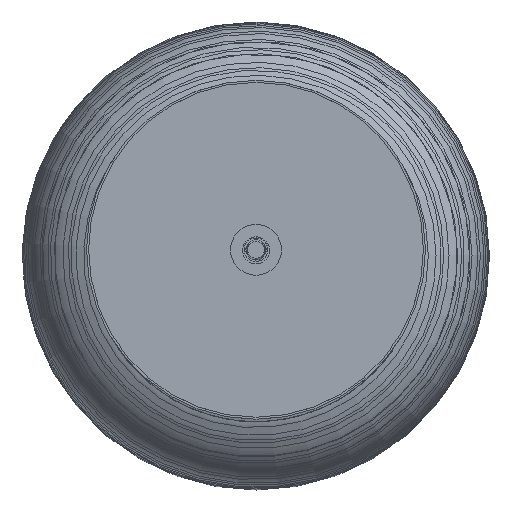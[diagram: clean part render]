
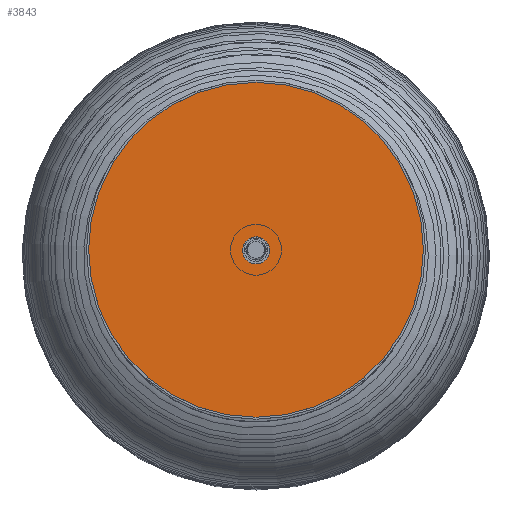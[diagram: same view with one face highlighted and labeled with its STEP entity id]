
A CAD part, top view. The second image highlights one B-rep face of the part: STEP entity #3843.
In plain terms, the highlighted planar face has unit normal (0, 0, 1).
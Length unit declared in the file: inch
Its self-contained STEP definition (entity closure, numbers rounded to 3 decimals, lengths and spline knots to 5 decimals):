
#32=FACE_BOUND('',#1277,.T.);
#324=PLANE('',#4223);
#1029=FACE_OUTER_BOUND('',#1276,.T.);
#1276=EDGE_LOOP('',(#3136));
#1277=EDGE_LOOP('',(#3137));
#1525=CIRCLE('',#4218,0.2);
#1527=CIRCLE('',#4221,2.47);
#1755=VERTEX_POINT('',#8857);
#1757=VERTEX_POINT('',#8863);
#2246=EDGE_CURVE('',#1755,#1755,#1525,.T.);
#2249=EDGE_CURVE('',#1757,#1757,#1527,.F.);
#3136=ORIENTED_EDGE('',*,*,#2249,.T.);
#3137=ORIENTED_EDGE('',*,*,#2246,.T.);
#3843=ADVANCED_FACE('',(#1029,#32),#324,.T.);
#4218=AXIS2_PLACEMENT_3D('',#8858,#4963,#4964);
#4221=AXIS2_PLACEMENT_3D('',#8864,#4970,#4971);
#4223=AXIS2_PLACEMENT_3D('',#8868,#4975,#4976);
#4963=DIRECTION('center_axis',(0.,0.,-1.));
#4964=DIRECTION('ref_axis',(1.,0.,0.));
#4970=DIRECTION('center_axis',(0.,0.,-1.));
#4971=DIRECTION('ref_axis',(1.,0.,0.));
#4975=DIRECTION('center_axis',(0.,0.,1.));
#4976=DIRECTION('ref_axis',(1.,0.,0.));
#8857=CARTESIAN_POINT('',(-0.19813,-0.00889,47.73));
#8858=CARTESIAN_POINT('Origin',(0.00187,-0.00889,
47.73));
#8863=CARTESIAN_POINT('',(-2.47,0.,47.73));
#8864=CARTESIAN_POINT('Origin',(0.,0.,47.73));
#8868=CARTESIAN_POINT('Origin',(0.,0.,47.73));
